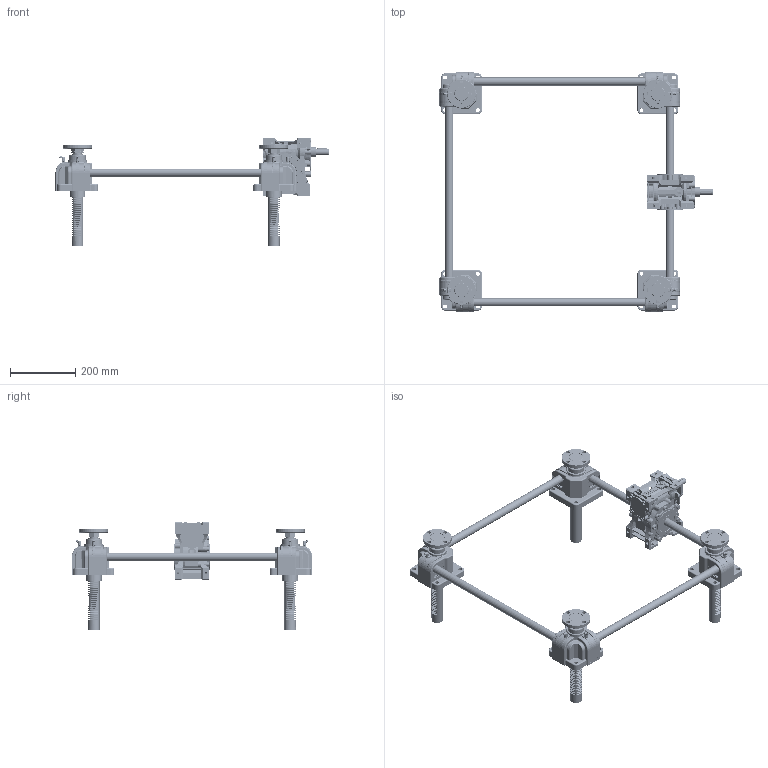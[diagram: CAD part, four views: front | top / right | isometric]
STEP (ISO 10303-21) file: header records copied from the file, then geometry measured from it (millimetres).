
FILE_DESCRIPTION(('STEP AP203'),'1');
FILE_NAME('SPH1500F-600x600-300-150ST-063.stp','2016-08-05T06:40:20',(' '),(' '),'Spatial InterOp 3D',' ',' ');
FILE_SCHEMA(('CONFIG_CONTROL_DESIGN'));
Length unit declared in the file: millimetre
Products named in the file (77): SPH1500F-600x600-300-150ST-063; Rack Gear(SP-1500F); Flange.1-Part; Flange.1; Joint.1; Nut.1; Flange.2-Part; Flange.2; Joint.2; Nut.2; Flange.3-Part; Flange.3; Joint.3; Nut.3; Flange.4-Part; Flange.4; Joint.4; Nut.4; Body.1-Part; SnapRing-55Pie; b6205zz; Nipple; Gear Box.1(NSP-1500); RJ05-4SCJ-610X600-100ST_CAP; LABEL-B.1; ___; 파트18; __ ; Body.2-Part; Gear Box.2(NSP-1500); Body.3-Part; Gear Box.3(NSP-1500); Body.4-Part; Gear Box.4(NSP-1500); 파트51; NRV063; 1; 2; 3; 4
Assembly tree (81 placements, depth 6):
  SPH1500F-600x600-300-150ST-063
    Rack Gear(SP-1500F)  x4
    Flange.1-Part
      Flange.1
      Joint.1
      Nut.1
    Flange.2-Part
      Flange.2
      Joint.2
      Nut.2
    Flange.3-Part
      Flange.3
      Joint.3
      Nut.3
    Flange.4-Part
      Flange.4
      Joint.4
      Nut.4
    Body.1-Part
      SnapRing-55Pie
      SnapRing-55Pie
      b6205zz
      b6205zz
      Nipple
      Nipple
      Gear Box.1(NSP-1500)
      __ 
        ___
          RJ05-4SCJ-610X600-100ST_CAP
            LABEL-B.1
          파트18
    Body.2-Part
      Nipple
      Nipple
      SnapRing-55Pie
      SnapRing-55Pie
      b6205zz
      b6205zz
      Gear Box.2(NSP-1500)
      __ 
        ___
          RJ05-4SCJ-610X600-100ST_CAP
            LABEL-B.1
          파트18
    Body.3-Part
      Nipple
      Nipple
      SnapRing-55Pie
      SnapRing-55Pie
      b6205zz
      b6205zz
      Gear Box.3(NSP-1500)
      __ 
        ___
          RJ05-4SCJ-610X600-100ST_CAP
            LABEL-B.1
          파트18
    Body.4-Part
      Nipple
      Nipple
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Bounding box: 835.21 x 735.42 x 332 mm (x, y, z)
Volume: 6176838.8 mm3; surface area: 1337514.2 mm2
Topology: 88 solids, 92 shells, 12221 faces, 33811 edges, 21945 vertices
Faces by surface type: plane 8858, cylinder 2188, torus 432, bspline 226, revolution 168, extrusion 152, cone 109, sphere 88
Full cylindrical faces by diameter (mm): 3.087 x16, 4.8 x8, 4.917 x1, 6 x12, 6.4 x1, 6.647 x16, 7.26 x12, 7.8 x1, 8 x8, 8.5 x14, 9.886 x8, 10 x8, 12 x32, 13 x8, 14 x3, 19 x1, 24 x1, 25 x28, 27 x5, 28 x8, 30 x2, 32.5 x16, 35 x4, 36 x4, 37 x5, 38 x4, 39 x12, 39.4 x4, 41 x8, 44 x5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
Entity records: 376934 total; most frequent: CARTESIAN_POINT 94557, ORIENTED_EDGE 59768, DIRECTION 53438, EDGE_CURVE 29884, VECTOR 24204, LINE 24052, VERTEX_POINT 19735, AXIS2_PLACEMENT_3D 14533
